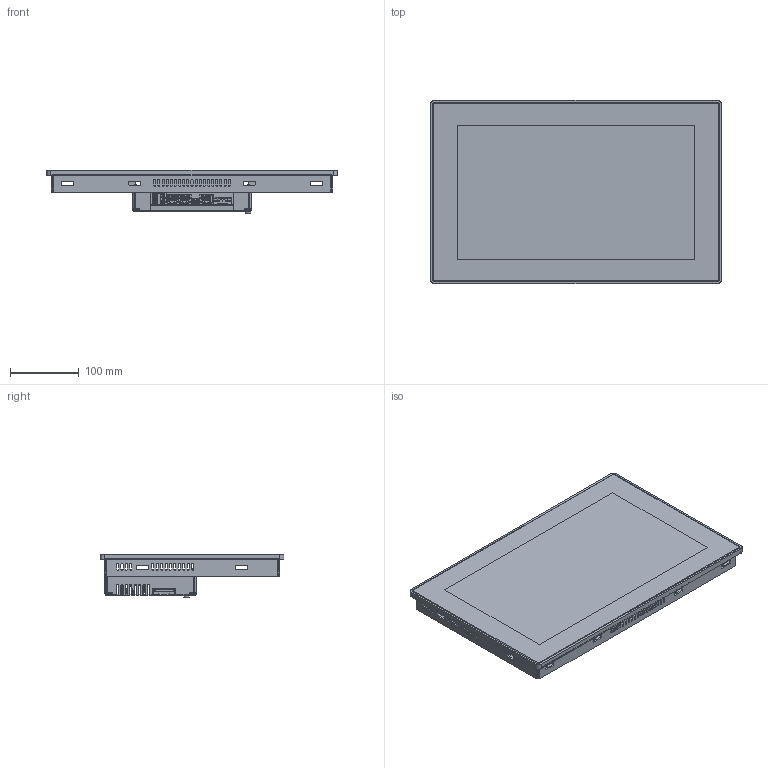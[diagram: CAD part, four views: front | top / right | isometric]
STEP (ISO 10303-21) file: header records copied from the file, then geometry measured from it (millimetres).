
FILE_DESCRIPTION (( 'STEP AP203' ), '1' );
FILE_NAME ('eX715.STEP', '2017-08-23T14:13:14', ( '' ), ( '' ), 'SwSTEP 2.0', 'SolidWorks 2016', '' );
FILE_SCHEMA (( 'CONFIG_CONTROL_DESIGN' ));
Products named in the file (1): eX715
Bounding box: 422 x 267 x 63.89 mm (x, y, z)
Surface area: 796532.1 mm2 (no closed solid volume)
Topology: 0 solids, 33 shells, 9012 faces, 24207 edges, 15057 vertices
Faces by surface type: plane 5797, cylinder 1973, bspline 566, torus 256, cone 219, sphere 201
Entity records: 293927 total; most frequent: CARTESIAN_POINT 74778, ORIENTED_EDGE 48282, DIRECTION 41815, EDGE_CURVE 24142, LINE 17363, VECTOR 17363, VERTEX_POINT 15035, AXIS2_PLACEMENT_3D 12226
